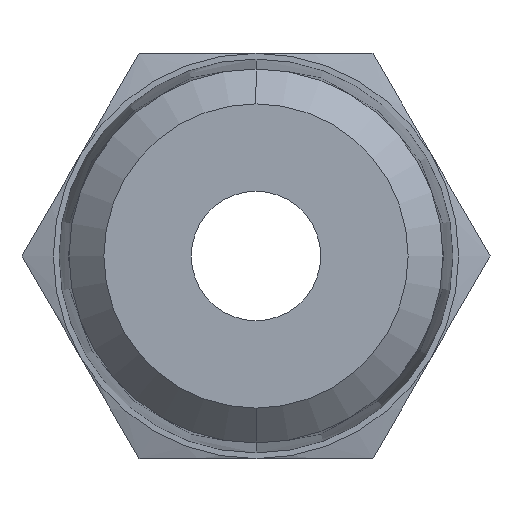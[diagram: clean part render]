
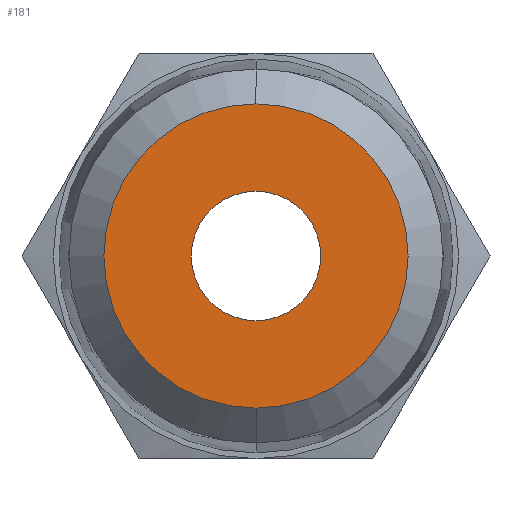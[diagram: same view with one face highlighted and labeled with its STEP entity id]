
A CAD part, left-side view. The second image highlights one B-rep face of the part: STEP entity #181.
In plain terms, the highlighted planar face has unit normal (-1, 0, 0).
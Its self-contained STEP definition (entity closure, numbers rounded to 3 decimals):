
#5 = DIRECTION ( 'NONE',  ( 0., 0., 1. ) ) ;
#6 = DIRECTION ( 'NONE',  ( -1., 0., 0. ) ) ;
#7 = AXIS2_PLACEMENT_3D ( 'NONE', #13, #6, #5 ) ;
#8 = CIRCLE ( 'NONE', #7, 8.344 ) ;
#10 = DIRECTION ( 'NONE',  ( 0., 0., 1. ) ) ;
#11 = DIRECTION ( 'NONE',  ( -1., 0., 0. ) ) ;
#12 = AXIS2_PLACEMENT_3D ( 'NONE', #14, #11, #10 ) ;
#13 = CARTESIAN_POINT ( 'NONE',  ( -19., 0., 0. ) ) ;
#14 = CARTESIAN_POINT ( 'NONE',  ( -19., 0., 0. ) ) ;
#15 = PLANE ( 'NONE',  #12 ) ;
#16 = FACE_BOUND ( 'NONE', #185, .T. ) ;
#21 = FACE_OUTER_BOUND ( 'NONE', #1444, .T. ) ;
#135 = ORIENTED_EDGE ( 'NONE', *, *, #1312, .F. ) ;
#136 = ORIENTED_EDGE ( 'NONE', *, *, #237, .F. ) ;
#181 = ADVANCED_FACE ( 'NONE', ( #21, #16 ), #15, .T. ) ;
#182 = ORIENTED_EDGE ( 'NONE', *, *, #183, .T. ) ;
#183 = EDGE_CURVE ( 'NONE', #1372, #1471, #8, .T. ) ;
#184 = ORIENTED_EDGE ( 'NONE', *, *, #1587, .T. ) ;
#185 = EDGE_LOOP ( 'NONE', ( #135, #136 ) ) ;
#237 = EDGE_CURVE ( 'NONE', #1313, #1318, #465, .T. ) ;
#281 = CARTESIAN_POINT ( 'NONE',  ( -19., 0., -3.55 ) ) ;
#399 = DIRECTION ( 'NONE',  ( 0., 0., 1. ) ) ;
#400 = DIRECTION ( 'NONE',  ( -1., 0., 0. ) ) ;
#407 = CARTESIAN_POINT ( 'NONE',  ( -19., 0., 3.55 ) ) ;
#408 = DIRECTION ( 'NONE',  ( 0., 0., 1. ) ) ;
#409 = DIRECTION ( 'NONE',  ( -1., 0., 0. ) ) ;
#410 = CARTESIAN_POINT ( 'NONE',  ( -19., 0., 0. ) ) ;
#411 = AXIS2_PLACEMENT_3D ( 'NONE', #410, #409, #408 ) ;
#412 = CIRCLE ( 'NONE', #411, 3.55 ) ;
#459 = CARTESIAN_POINT ( 'NONE',  ( -19., 0., 0. ) ) ;
#460 = AXIS2_PLACEMENT_3D ( 'NONE', #459, #400, #399 ) ;
#465 = CIRCLE ( 'NONE', #460, 3.55 ) ;
#680 = CARTESIAN_POINT ( 'NONE',  ( -19., 0., -8.344 ) ) ;
#828 = CARTESIAN_POINT ( 'NONE',  ( -19., 0., 8.344 ) ) ;
#1117 = DIRECTION ( 'NONE',  ( 0., 0., 1. ) ) ;
#1118 = DIRECTION ( 'NONE',  ( -1., 0., 0. ) ) ;
#1119 = CARTESIAN_POINT ( 'NONE',  ( -19., 0., 0. ) ) ;
#1120 = AXIS2_PLACEMENT_3D ( 'NONE', #1119, #1118, #1117 ) ;
#1121 = CIRCLE ( 'NONE', #1120, 8.344 ) ;
#1312 = EDGE_CURVE ( 'NONE', #1318, #1313, #412, .T. ) ;
#1313 = VERTEX_POINT ( 'NONE', #407 ) ;
#1318 = VERTEX_POINT ( 'NONE', #281 ) ;
#1372 = VERTEX_POINT ( 'NONE', #680 ) ;
#1444 = EDGE_LOOP ( 'NONE', ( #182, #184 ) ) ;
#1471 = VERTEX_POINT ( 'NONE', #828 ) ;
#1587 = EDGE_CURVE ( 'NONE', #1471, #1372, #1121, .T. ) ;
